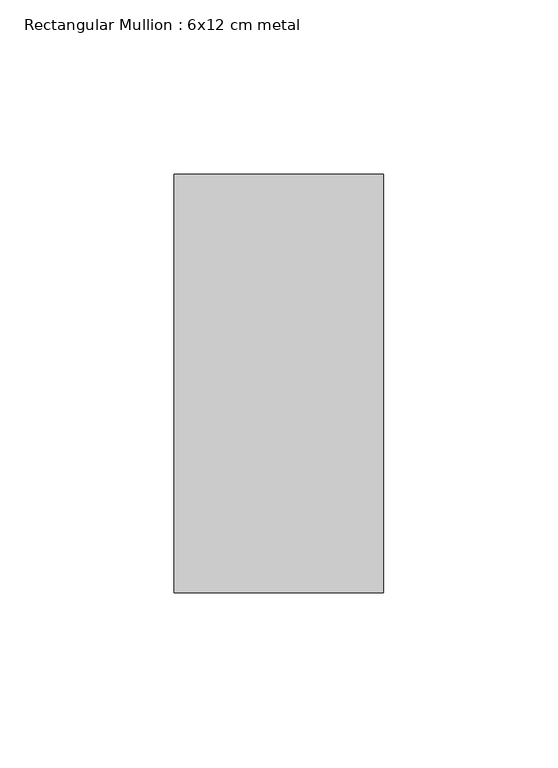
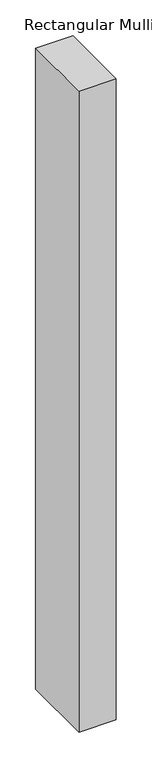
"""IFC4 building model written with IfcOpenShell, lengths in millimetres: member geometry, Rectangular Mullion : 6x12 cm metal."""

from ifc_helpers import new_model, si_unit, frame, origin, place, context, project, spatial, polyline, outline, extrude, source, transform, mapped, element, save


def rectangular_mullion_6x12_cm_metal_9bcaec90(model_context):
    return source(origin(), model_context, "Body", "SweptSolid", [
        extrude(outline(polyline([(0.0, 60.0), (0.0, -60.0), (-60.0, -60.0), (-60.0, 60.0), (0.0, 60.0)])), frame((0.0, 0.0, -1088.9366027), z_axis=(0.0, 0.0, 1.0), x_axis=(1.0, 0.0, 0.0)), (0.0, 0.0, 1.0), 1088.9366027),
    ])


if __name__ == "__main__":
    model = new_model("IFC4")
    model_context = context("Model", 3, world=origin())
    ifc_project = project(units=[si_unit("LENGTHUNIT", "METRE", prefix="MILLI")], contexts=[model_context])
    site = spatial("IfcSite", under=ifc_project)
    building = spatial("IfcBuilding", under=site)
    placement = place(None, origin())
    rectangular_mullion_6x12_cm_metal_shape = rectangular_mullion_6x12_cm_metal_9bcaec90(model_context)
    element("IfcMember", 1, ObjectType="Rectangular Mullion : 6x12 cm metal", at=placement, inside=building, context=model_context, shape_type="MappedRepresentation", body=[
        mapped(rectangular_mullion_6x12_cm_metal_shape, transform((0.0, 0.0, 0.0), x_axis=(1.0, 0.0, 0.0), y_axis=(0.0, 1.0, 0.0), z_axis=(0.0, 0.0, 1.0))),
    ])
    save(model, "model.ifc")
